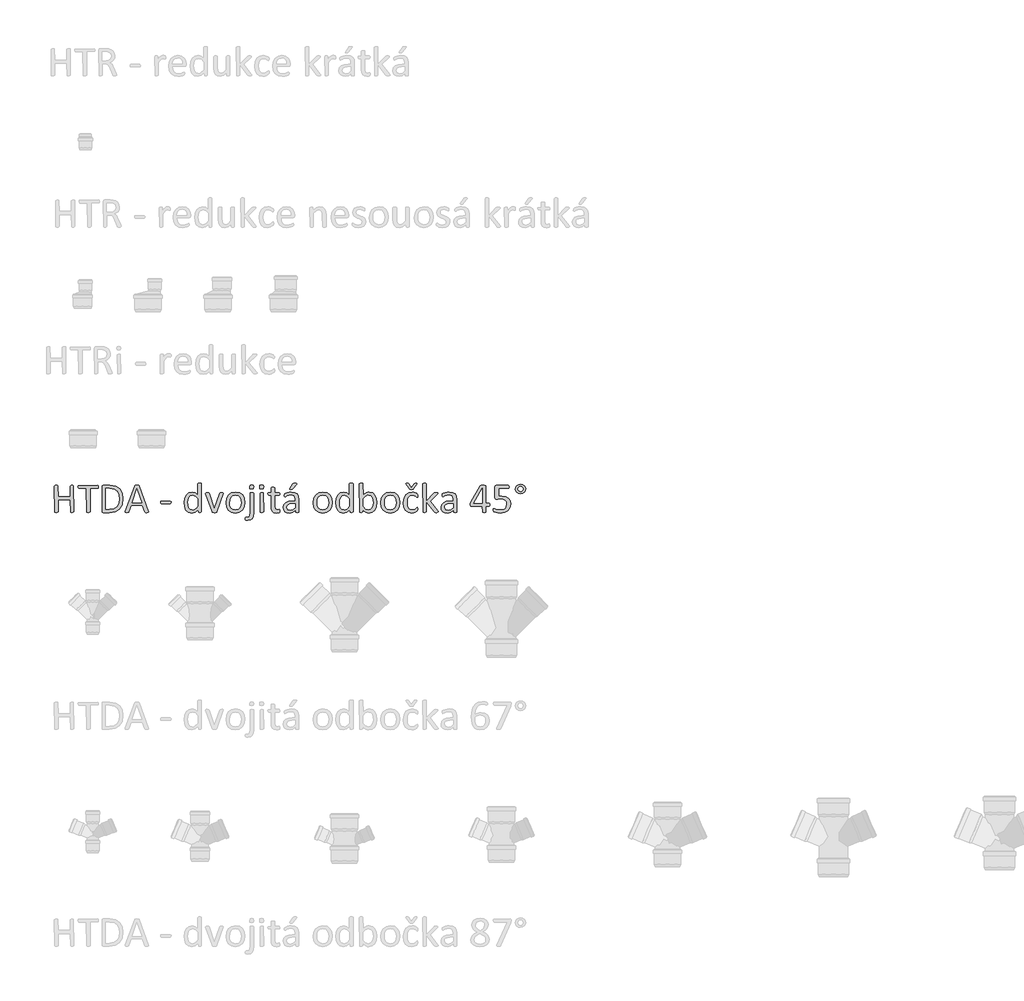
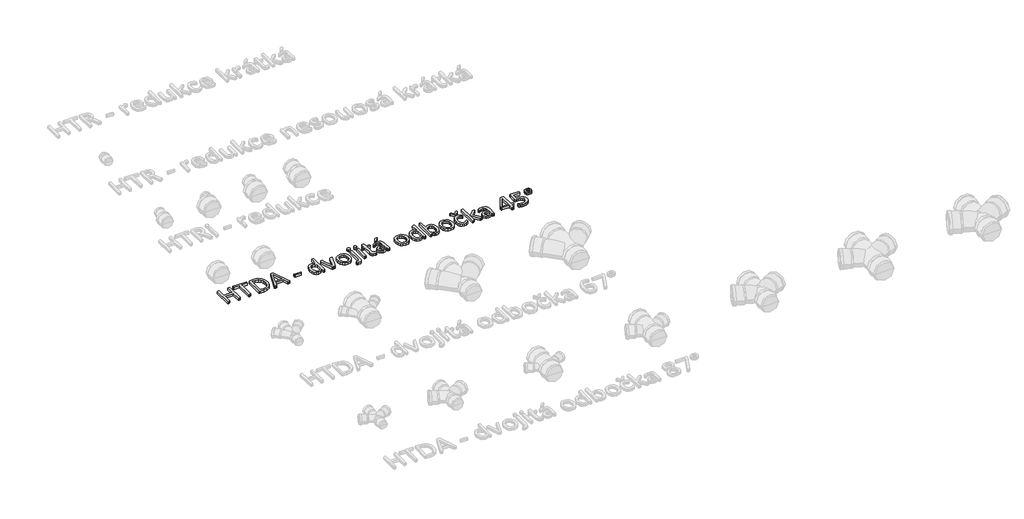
# One storey, part 17 of 26: 1 proxy.
"""IFC4 building model written with IfcOpenShell, lengths in millimetres."""

import ifcopenshell
import ifcopenshell.guid

model = None  # the IFC model being written
_history = None  # IfcOwnerHistory: only IFC2X3 demands one
_inside = {}  # id of a spatial element -> (the spatial element, [elements in it])
_under = {}  # id of a project, library or spatial element -> (it, [spatial elements below it])
_declared = {}  # id of a project -> (the project, [libraries it declares])
_typed = {}  # id of a type object -> (the type object, [elements of that type])
_made_of = {}  # id of a material, layer set ... -> (it, [elements and type objects made of it])


def new_model(schema):
    """Start an empty IFC model of exactly this schema.

    Asked for "IFC4X3", IfcOpenShell would pick the latest addendum, in which some entities
    have other attributes; the version numbers below select the first issue.
    IFC2X3 requires an IfcOwnerHistory on every rooted entity: one is made here for all.
    """
    global model, _history
    if schema == "IFC4X3":
        model = ifcopenshell.file(schema_version=(4, 3, 0, 0))
    else:
        model = ifcopenshell.file(schema=schema)
    _inside.clear()
    _under.clear()
    _declared.clear()
    _typed.clear()
    _made_of.clear()
    _history = None
    if model.schema == "IFC2X3":
        org = make("IfcOrganization", Name="unknown")
        user = make(
            "IfcPersonAndOrganization",
            ThePerson=make("IfcPerson", FamilyName="unknown"),
            TheOrganization=org,
        )
        app = make(
            "IfcApplication",
            ApplicationDeveloper=org,
            Version="unknown",
            ApplicationFullName="unknown",
            ApplicationIdentifier="unknown",
        )
        _history = make(
            "IfcOwnerHistory",
            OwningUser=user,
            OwningApplication=app,
            ChangeAction="ADDED",
            CreationDate=0,
        )
    return model


def make(cls, **values):
    """One entity of the class cls with the attributes given. An attribute that is None is left unset."""
    return model.create_entity(
        cls, **{name: value for name, value in values.items() if value is not None}
    )


def rooted(cls, **values):
    """An entity with a GlobalId (a new one), such as an element, a storey or a relation."""
    return make(cls, GlobalId=ifcopenshell.guid.new(), OwnerHistory=_history, **values)


def si_unit(unit_type, name, prefix=None):
    """IfcSIUnit, for example si_unit("LENGTHUNIT", "METRE", prefix="MILLI")."""
    return make("IfcSIUnit", UnitType=unit_type, Prefix=prefix, Name=name)


def assignment(units):
    """IfcUnitAssignment: the units of a project."""
    return None if units is None else make("IfcUnitAssignment", Units=units)


def point(xyz):
    """IfcCartesianPoint."""
    return None if xyz is None else make("IfcCartesianPoint", Coordinates=xyz)


def direction(xyz):
    """IfcDirection."""
    return None if xyz is None else make("IfcDirection", DirectionRatios=xyz)


def frame(location, z_axis=None, x_axis=None):
    """IfcAxis2Placement3D, a coordinate frame: its origin and axes. An axis left out is left unset."""
    return make(
        "IfcAxis2Placement3D",
        Location=point(location),
        Axis=direction(z_axis),
        RefDirection=direction(x_axis),
    )


def origin():
    """The frame at (0, 0, 0) with its axes left unset."""
    return frame((0.0, 0.0, 0.0))


def origin_with_axes():
    """The frame at (0, 0, 0) with the z axis (0, 0, 1) and the x axis (1, 0, 0) written out."""
    return frame((0.0, 0.0, 0.0), z_axis=(0.0, 0.0, 1.0), x_axis=(1.0, 0.0, 0.0))


def place(relative_to, where):
    """IfcLocalPlacement: puts the frame where relative to a parent placement (None: the world)."""
    return make(
        "IfcLocalPlacement", PlacementRelTo=relative_to, RelativePlacement=where
    )


def context(
    kind, dimensions, precision=None, world=None, true_north=None, identifier=None
):
    """IfcGeometricRepresentationContext, for example the 3D "Model" context."""
    return make(
        "IfcGeometricRepresentationContext",
        ContextIdentifier=identifier,
        ContextType=kind,
        CoordinateSpaceDimension=dimensions,
        Precision=precision,
        WorldCoordinateSystem=world,
        TrueNorth=true_north,
    )


def project(units=None, contexts=None):
    """IfcProject with its units and contexts."""
    return rooted(
        "IfcProject",
        Name="project",
        RepresentationContexts=contexts,
        UnitsInContext=assignment(units),
    )


def spatial(cls, under=None, at=None, **own):
    """A site, building, storey or space (cls), placed at a placement, below another one or the project."""
    s = rooted(cls, ObjectPlacement=at, **own)
    if under is not None:
        _under.setdefault(under.id(), (under, []))[1].append(s)
    return s


def polyline(points):
    """IfcPolyline through the points."""
    return make("IfcPolyline", Points=[point(p) for p in points])


def outline(outer, holes=None, kind="AREA"):
    """IfcArbitraryClosedProfileDef: a profile drawn as a closed curve; with holes, ...WithVoids."""
    if holes is None:
        return make("IfcArbitraryClosedProfileDef", ProfileType=kind, OuterCurve=outer)
    return make(
        "IfcArbitraryProfileDefWithVoids",
        ProfileType=kind,
        OuterCurve=outer,
        InnerCurves=holes,
    )


def extrude(swept, where, along, depth):
    """IfcExtrudedAreaSolid: the profile swept, set in the frame where, extruded along a direction by depth."""
    return make(
        "IfcExtrudedAreaSolid",
        SweptArea=swept,
        Position=where,
        ExtrudedDirection=direction(along),
        Depth=depth,
    )


def shape(context_of_items, identifier, shape_type, items):
    """IfcShapeRepresentation: the items that make up one representation, for example the "Body"."""
    return make(
        "IfcShapeRepresentation",
        ContextOfItems=context_of_items,
        RepresentationIdentifier=identifier,
        RepresentationType=shape_type,
        Items=items,
    )


def made_of(thing, what):
    """Note that an element or type object is made of a material, layer set ...; save() writes the relation."""
    if what is not None:
        _made_of.setdefault(what.id(), (what, []))[1].append(thing)
    return thing


def element(
    cls,
    number,
    at=None,
    inside=None,
    cuts=None,
    type_object=None,
    material=None,
    context=None,
    identifier="Body",
    shape_type=None,
    held_by="IfcProductDefinitionShape",
    body=None,
    shapes=None,
    **own,
):
    """One element of the class cls, such as IfcWall. Its Tag is "e" and its number.

    at: its placement. inside: the storey or other place that contains it. cuts: it is an
    opening in that element (IfcRelVoidsElement). A single representation is given by context,
    identifier, shape_type and body (its items); several are given by shapes. held_by: the class
    of the entity that holds the representations. save() writes the other relations.
    """
    e = rooted(cls, Tag="e%d" % number, ObjectPlacement=at, **own)
    if body is not None:
        shapes = [shape(context, identifier, shape_type, body)]
    if shapes is not None:
        e.Representation = make(held_by, Representations=shapes)
    if inside is not None:
        _inside.setdefault(inside.id(), (inside, []))[1].append(e)
    if cuts is not None:
        rooted(
            "IfcRelVoidsElement", RelatingBuildingElement=cuts, RelatedOpeningElement=e
        )
    if type_object is not None:
        _typed.setdefault(type_object.id(), (type_object, []))[1].append(e)
    return made_of(e, material)


def aggregate(whole, parts):
    """IfcRelAggregates: a whole, such as a stair, and the parts it consists of."""
    return rooted("IfcRelAggregates", RelatingObject=whole, RelatedObjects=parts)


def save(model, path):
    """Write the relations noted so far, then the file.

    IfcRelAggregates (storeys below a building ...), IfcRelContainedInSpatialStructure (elements
    in a storey), IfcRelDefinesByType, IfcRelAssociatesMaterial and IfcRelDeclares: one each for
    every whole, place, type object, material and project.
    """
    for whole, parts in _under.values():
        aggregate(whole, parts)
    for where, things in _inside.values():
        rooted(
            "IfcRelContainedInSpatialStructure",
            RelatedElements=things,
            RelatingStructure=where,
        )
    for kind, things in _typed.values():
        rooted("IfcRelDefinesByType", RelatedObjects=things, RelatingType=kind)
    for what, things in _made_of.values():
        rooted("IfcRelAssociatesMaterial", RelatedObjects=things, RelatingMaterial=what)
    for by, libraries in _declared.values():
        rooted("IfcRelDeclares", RelatingContext=by, RelatedDefinitions=libraries)
    model.write(path)


model = new_model("IFC4")

# Units and contexts
model_context = context("Model", 3, world=origin())
ifc_project = project(units=[si_unit("LENGTHUNIT", "METRE", prefix="MILLI")], contexts=[model_context])

# Site, building, storey
site = spatial("IfcSite", under=ifc_project)
building = spatial("IfcBuilding", under=site)
storey = spatial("IfcBuildingStorey", under=building, Name="Podlaží 1", Elevation=0.0)

# Proxy
placement = place(None, origin())
element("IfcBuildingElementProxy", 1, Name="120mm Arial", ObjectType="120mm Arial", at=placement, inside=storey, context=model_context, shape_type="SweptSolid", body=[
    extrude(outline(polyline([(-20465.0657483, 11928.0506997), (-20469.2817655, 11925.3184311), (-20473.1358927, 11925.0832026), (-20477.1166815, 11925.3184311), (-20479.5775327, 11925.8612659), (-20481.2784151, 11980.6694889), (-20534.5486061, 11980.6694889), (-20534.5486061, 11928.0145107), (-20538.7465288, 11925.3184311), (-20542.6549395, 11925.0832026), (-20546.5271613, 11925.3184311), (-20549.0603905, 11925.8793604), (-20550.7612729, 12042.5526591), (-20546.5271613, 12045.2849277), (-20542.6549395, 12045.5201562), (-20538.7465288, 12045.2849277), (-20536.2494886, 12044.7239984), (-20534.5486061, 11994.5660604), (-20481.2784151, 11994.5660604), (-20481.2784151, 12042.5526591), (-20477.1166815, 12045.2849277), (-20473.1358927, 12045.5201562), (-20469.2817655, 12045.2849277), (-20466.7666308, 12044.7239984), (-20465.0657483, 11928.0506997)])), origin_with_axes(), (0.0, 0.0, 1.0), 15.0),
    extrude(outline(polyline([(-20356.2092711, 12038.4633034), (-20356.390216, 12035.3329559), (-20356.9873343, 12033.1978056), (-20393.2667952, 12031.6235846), (-20393.2667952, 11928.0506997), (-20397.4647179, 11925.3184311), (-20401.3731287, 11925.0832026), (-20405.2453504, 11925.3184311), (-20407.7785796, 11925.8793604), (-20409.4794621, 12031.6235846), (-20443.3885442, 12031.6235846), (-20446.3017578, 12035.3329559), (-20446.5369862, 12038.4633034), (-20446.3017578, 12041.6660289), (-20445.686545, 12043.9097462), (-20359.3939021, 12045.5201562), (-20357.0054288, 12043.9097462), (-20356.390216, 12041.6660289), (-20356.2092711, 12038.4633034)])), origin_with_axes(), (0.0, 0.0, 1.0), 15.0),
    extrude(outline(polyline([(-20247.3527939, 11987.0749398), (-20251.3516771, 11959.7522536), (-20263.0407204, 11940.3911447), (-20281.8951833, 11928.9011409), (-20308.5121843, 11925.0832026), (-20334.0254212, 11925.0832026), (-20338.0966824, 11926.5307622), (-20339.9966043, 11931.5972206), (-20339.9966043, 12039.0061382), (-20338.0966824, 12044.0725966), (-20334.0254212, 12045.5201562), (-20306.7389239, 12045.5201562), (-20280.3028678, 12041.4669895), (-20262.1902791, 12029.8322297), (-20251.1164487, 12011.4482235), (-20247.3527939, 11987.0749398)]), holes=[polyline([(-20263.5654607, 11986.3511601), (-20266.0082174, 12004.3370873), (-20273.644094, 12018.7403047), (-20286.8168858, 12028.2218197), (-20307.3541367, 12031.6235846), (-20323.7839374, 12031.6235846), (-20323.7839374, 11938.9797742), (-20307.1731918, 11938.9797742), (-20287.5768545, 11941.8387043), (-20274.2593068, 11950.578345), (-20266.2434458, 11965.3434523), (-20263.5654607, 11986.3511601)])]), origin_with_axes(), (0.0, 0.0, 1.0), 15.0),
    extrude(outline(polyline([(-20134.5879059, 11931.3438976), (-20133.8098426, 11928.0506997), (-20134.4974334, 11926.1145888), (-20136.9582846, 11925.2641476), (-20141.5361917, 11925.0832026), (-20146.1502877, 11925.2279586), (-20148.7378004, 11925.6984154), (-20150.8367617, 11927.9783217), (-20161.1144344, 11957.5085363), (-20211.0190495, 11957.5085363), (-20220.8262653, 11928.3764006), (-20221.5862341, 11926.928841), (-20222.9252267, 11925.8793604), (-20225.4222669, 11925.2641476), (-20229.6563785, 11925.0832026), (-20234.0533406, 11925.3184311), (-20236.4599083, 11926.2050613), (-20237.1113101, 11928.1230777), (-20236.3151524, 11931.4162756), (-20196.0729972, 12042.2269582), (-20195.1139891, 12043.8735572), (-20193.3407286, 12044.8687544), (-20190.3732316, 12045.3754002), (-20185.7953245, 12045.5201562), (-20180.8736221, 12045.3754002), (-20177.7070856, 12044.8687544), (-20175.8614472, 12043.8373682), (-20174.830061, 12042.1545802), (-20134.5879059, 11931.3438976)]), holes=[polyline([(-20186.2295924, 12029.3074893), (-20207.0020718, 11969.0890126), (-20165.2761681, 11969.0890126), (-20186.2295924, 12029.3074893)])]), origin_with_axes(), (0.0, 0.0, 1.0), 15.0),
    extrude(outline(polyline([(-20034.2720299, 11970.2832492), (-20035.1224712, 11965.7234367), (-20037.6014169, 11964.4568221), (-20077.1921702, 11964.4568221), (-20079.7434939, 11965.7596256), (-20080.5939351, 11970.2832492), (-20079.7434939, 11974.7706838), (-20077.1921702, 11976.0372984), (-20037.6014169, 11976.0372984), (-20034.5072584, 11972.9974233), (-20034.2720299, 11970.2832492)])), origin_with_axes(), (0.0, 0.0, 1.0), 15.0),
    extrude(outline(polyline([(-19900.2642058, 11927.9783217), (-19903.6478762, 11925.2641476), (-19906.9591686, 11925.0832026), (-19910.3971225, 11925.2641476), (-19912.6408398, 11925.7346044), (-19914.3055333, 11938.0388605), (-19927.7497425, 11926.8021796), (-19943.0034011, 11922.7671074), (-19958.4199102, 11926.3679117), (-19968.7518664, 11936.1027496), (-19974.5421045, 11950.542156), (-19976.3696484, 11968.0033429), (-19974.0897422, 11987.6358691), (-19967.3585903, 12002.5819214), (-19956.3209488, 12012.0815308), (-19941.0853847, 12015.4109178), (-19927.9306874, 12012.1720033), (-19916.1511717, 12002.6723938), (-19916.1511717, 12051.7808512), (-19914.4864782, 12053.9883794), (-19911.989438, 12054.5493088), (-19908.1534052, 12054.7845372), (-19904.1364275, 12054.5493088), (-19901.6936708, 12053.9883794), (-19900.3727727, 12053.0655602), (-19900.2642058, 11927.9783217)]), holes=[polyline([(-19916.1511717, 11986.1702151), (-19927.767837, 11997.587841), (-19939.4568802, 12001.5143462), (-19949.0469622, 11998.7639831), (-19955.4524131, 11991.5080909), (-19959.035123, 11981.3027962), (-19960.1569816, 11969.7404144), (-19959.2160679, 11957.5085363), (-19955.9409645, 11946.9051627), (-19949.7526474, 11939.4683255), (-19940.072093, 11936.6636789), (-19934.3904219, 11937.4779312), (-19928.7811286, 11940.1740108), (-19922.7918511, 11945.0595243), (-19916.1511717, 11952.4782669), (-19916.1511717, 11986.1702151)])]), origin_with_axes(), (0.0, 0.0, 1.0), 15.0),
    extrude(outline(polyline([(-19803.6305594, 12011.502507), (-19832.1203405, 11928.3764006), (-19833.0974432, 11926.7298016), (-19834.9068926, 11925.7346044), (-19837.9648622, 11925.2279586), (-19842.6151472, 11925.0832026), (-19847.2292432, 11925.2641476), (-19850.2510237, 11925.8069824), (-19852.0604732, 11926.8202741), (-19853.0737648, 11928.3764006), (-19881.4459318, 12006.6169936), (-19882.0430501, 12008.5169155), (-19878.4422457, 12013.00435), (-19874.8595359, 12013.0948225), (-19870.5530463, 12012.9500666), (-19868.056006, 12012.4434207), (-19865.9570447, 12010.1635145), (-19842.3980132, 11942.2729721), (-19818.4770919, 12010.1635145), (-19816.504792, 12012.4434207), (-19814.0801298, 12012.9500666), (-19810.0450576, 12013.0948225), (-19806.5166312, 12013.00435), (-19803.6305594, 12011.502507)])), origin_with_axes(), (0.0, 0.0, 1.0), 15.0),
    extrude(outline(polyline([(-19707.7025983, 11969.9937373), (-19710.3805834, 11951.0126129), (-19718.3964444, 11936.0665606), (-19731.7501811, 11926.2774393), (-19750.3332267, 11922.7671074), (-19768.2467759, 11925.8612659), (-19780.9852999, 11934.8542295), (-19788.5849874, 11949.1850689), (-19791.0820276, 11968.2928548), (-19788.4402315, 11987.2739793), (-19780.478654, 12002.201937), (-19767.1792008, 12011.9367749), (-19748.5599662, 12015.4109178), (-19730.6283225, 12012.3167593), (-19717.8897985, 12003.3237956), (-19710.253922, 11988.9929562), (-19707.7025983, 11969.9937373)]), holes=[polyline([(-19723.9152651, 11968.9080676), (-19725.1637852, 11981.4837411), (-19729.2712354, 11991.8699808), (-19736.9975844, 11998.9268335), (-19749.175179, 12001.5143462), (-19760.7375608, 11999.1439675), (-19768.6991383, 11992.4490046), (-19773.3494233, 11982.2075209), (-19774.8693608, 11969.2699575), (-19773.6208407, 11956.6219061), (-19769.4772015, 11946.2718554), (-19761.696569, 11939.2511916), (-19749.5370689, 11936.6636789), (-19738.0108761, 11939.0340577), (-19729.9950152, 11945.6747371), (-19725.3809191, 11955.8800318), (-19723.9152651, 11968.9080676)])]), origin_with_axes(), (0.0, 0.0, 1.0), 15.0),
    extrude(outline(polyline([(-19668.3289789, 11923.7080211), (-19669.7946329, 11908.327701), (-19674.3725399, 11898.4481071), (-19682.3703064, 11892.3864516), (-19694.1679166, 11890.3417737), (-19699.4876979, 11890.7398526), (-19702.8532738, 11891.6264828), (-19704.4636838, 11892.7483415), (-19705.0969911, 11894.23209), (-19705.3322195, 11895.9691614), (-19705.386503, 11898.1224062), (-19705.2417471, 11901.1803758), (-19704.7531957, 11903.2612426), (-19700.5733676, 11904.4735737), (-19696.6287678, 11904.2383453), (-19691.1099471, 11905.1611645), (-19687.3643868, 11908.182945), (-19685.2292365, 11913.6293878), (-19684.5416457, 11923.7803991), (-19684.5416457, 12010.2358924), (-19682.8226687, 12012.3529483), (-19680.343723, 12012.9138776), (-19676.4353123, 12013.0948225), (-19672.5269015, 12012.9138776), (-19670.0479558, 12012.3529483), (-19668.7270577, 12011.430129), (-19668.3289789, 11923.7080211)])), origin_with_axes(), (0.0, 0.0, 1.0), 15.0),
    extrude(outline(polyline([(-19668.3289789, 12038.6804373), (-19670.3374677, 12031.2797892), (-19677.7381159, 12029.3074893), (-19684.9397246, 12031.2255057), (-19686.8577409, 12038.4633034), (-19684.9035356, 12045.8639515), (-19677.5571709, 12047.8362514), (-19670.2469952, 12045.918235), (-19668.3289789, 12038.6804373)])), origin_with_axes(), (0.0, 0.0, 1.0), 15.0),
    extrude(outline(polyline([(-19624.3231689, 11927.9059437), (-19628.4487136, 11925.2641476), (-19632.4656913, 11925.0832026), (-19636.4102911, 11925.2641476), (-19638.9073313, 11925.8069824), (-19640.5358357, 12010.2720814), (-19636.4102911, 12012.9138776), (-19632.4656913, 12013.0948225), (-19628.4487136, 12012.9138776), (-19626.0059569, 12012.3710427), (-19624.3231689, 11927.9059437)])), origin_with_axes(), (0.0, 0.0, 1.0), 15.0),
    extrude(outline(polyline([(-19624.3231689, 12038.6804373), (-19626.3135633, 12031.2797892), (-19633.6961169, 12029.3074893), (-19640.8977256, 12031.2255057), (-19642.851931, 12038.4633034), (-19640.8615366, 12045.8639515), (-19633.478983, 12047.8362514), (-19626.2773743, 12045.918235), (-19624.3231689, 12038.6804373)])), origin_with_axes(), (0.0, 0.0, 1.0), 15.0),
    extrude(outline(polyline([(-19552.5242159, 11933.40667), (-19552.8861057, 11928.8830464), (-19553.9898699, 11926.4221952), (-19556.1973982, 11924.9384467), (-19559.5448796, 11923.7984935), (-19563.5437628, 11923.0566193), (-19567.75978, 11922.7671074), (-19578.779327, 11924.5222733), (-19586.2885421, 11929.8239601), (-19590.5588427, 11938.8169237), (-19591.8978353, 11951.6821091), (-19591.8978353, 12001.5143462), (-19602.8992878, 12001.5143462), (-19605.0163436, 12002.8714333), (-19605.7944068, 12007.2683954), (-19605.5772729, 12009.964475), (-19605.0163436, 12011.7920189), (-19591.8978353, 12013.0948225), (-19591.8978353, 12033.2520891), (-19590.2693308, 12035.4596174), (-19587.7722906, 12036.0748302), (-19583.8276909, 12036.2557751), (-19579.8107131, 12036.0748302), (-19577.3679564, 12035.4596174), (-19576.0832473, 12034.4644202), (-19575.6851685, 12013.0948225), (-19555.4193349, 12013.0948225), (-19552.7051608, 12009.964475), (-19552.5242159, 12007.2683954), (-19553.3203736, 12002.8714333), (-19555.4193349, 12001.5143462), (-19575.6851685, 12001.5143462), (-19575.6851685, 11954.3239053), (-19573.2786007, 11941.133019), (-19564.647527, 11936.6636789), (-19561.0467226, 11937.0798523), (-19558.242076, 11937.948388), (-19556.1250202, 11938.8350182), (-19554.5507992, 11939.2692861), (-19552.7051608, 11936.337978), (-19552.5242159, 11933.40667)])), origin_with_axes(), (0.0, 0.0, 1.0), 15.0),
    extrude(outline(polyline([(-19494.6580233, 12051.4913392), (-19493.3190308, 12053.0836547), (-19491.4552979, 12054.0607574), (-19488.7230292, 12054.6035923), (-19484.8146185, 12054.7845372), (-19480.4719399, 12054.4769308), (-19478.1558446, 12053.5903006), (-19478.4091675, 12050.6589925), (-19495.707504, 12029.8503242), (-19497.1007801, 12028.4208591), (-19498.5302451, 12027.5704179), (-19500.6292064, 12027.1180555), (-19503.8500264, 12026.9913941), (-19507.1794133, 12027.2628115), (-19508.9164848, 12027.9865913), (-19508.5184059, 12030.8274268), (-19494.6580233, 12051.4913392)])), origin_with_axes(), (0.0, 0.0, 1.0), 15.0),
    extrude(outline(polyline([(-19469.1447865, 11927.8697547), (-19469.9409442, 11926.1869668), (-19472.1122836, 11925.35462), (-19476.1654503, 11925.0832026), (-19480.2729004, 11925.35462), (-19482.4985232, 11926.1869668), (-19483.186114, 11927.8697547), (-19483.186114, 11936.1932221), (-19495.3818031, 11926.5669512), (-19509.6402646, 11922.7671074), (-19521.6007252, 11924.4860843), (-19530.7022558, 11929.4620702), (-19536.5467775, 11937.4598367), (-19538.6276443, 11948.2441552), (-19535.7506197, 11960.5122223), (-19527.4995304, 11969.1613906), (-19514.3448331, 11974.3183214), (-19496.8293627, 11976.0372984), (-19485.3574533, 11976.0372984), (-19485.3574533, 11982.9493951), (-19486.370745, 11991.9966423), (-19489.627754, 11998.5468492), (-19495.4360866, 12002.4914489), (-19504.2119163, 12003.8304415), (-19514.2543606, 12002.3828819), (-19522.0349931, 11999.198251), (-19527.6261918, 11996.01362), (-19530.9555788, 11994.5660604), (-19533.8145088, 11998.0944868), (-19533.9954538, 12000.7543775), (-19533.6697529, 12004.5542212), (-19532.0774374, 12007.2141119), (-19527.7347588, 12009.928286), (-19520.641717, 12012.6062712), (-19511.8658874, 12014.61476), (-19502.2577109, 12015.4109178), (-19486.8773908, 12013.3662399), (-19476.6178126, 12007.3950568), (-19470.9180469, 11997.6421245), (-19469.1447865, 11984.0350648), (-19469.1447865, 11927.8697547)]), holes=[polyline([(-19485.3574533, 11964.4568221), (-19498.2407332, 11964.4568221), (-19508.9888628, 11963.3892469), (-19516.5704558, 11960.2408049), (-19521.0036069, 11955.2467245), (-19522.4149775, 11948.5336671), (-19518.3618108, 11938.1836164), (-19506.9984684, 11934.3475837), (-19495.9970159, 11937.4055532), (-19485.3574533, 11946.7604067), (-19485.3574533, 11964.4568221)])]), origin_with_axes(), (0.0, 0.0, 1.0), 15.0),
    extrude(outline(polyline([(-19320.9146899, 11969.9937373), (-19323.592675, 11951.0126129), (-19331.6085359, 11936.0665606), (-19344.9622727, 11926.2774393), (-19363.5453182, 11922.7671074), (-19381.4588675, 11925.8612659), (-19394.1973914, 11934.8542295), (-19401.797079, 11949.1850689), (-19404.2941192, 11968.2928548), (-19401.6523231, 11987.2739793), (-19393.6907456, 12002.201937), (-19380.3912924, 12011.9367749), (-19361.7720578, 12015.4109178), (-19343.840414, 12012.3167593), (-19331.1018901, 12003.3237956), (-19323.4660135, 11988.9929562), (-19320.9146899, 11969.9937373)]), holes=[polyline([(-19337.1273567, 11968.9080676), (-19338.3758768, 11981.4837411), (-19342.483327, 11991.8699808), (-19350.209676, 11998.9268335), (-19362.3872706, 12001.5143462), (-19373.9496524, 11999.1439675), (-19381.9112299, 11992.4490046), (-19386.5615149, 11982.2075209), (-19388.0814524, 11969.2699575), (-19386.8329323, 11956.6219061), (-19382.6892931, 11946.2718554), (-19374.9086606, 11939.2511916), (-19362.7491605, 11936.6636789), (-19351.2229677, 11939.0340577), (-19343.2071067, 11945.6747371), (-19338.5930107, 11955.8800318), (-19337.1273567, 11968.9080676)])]), origin_with_axes(), (0.0, 0.0, 1.0), 15.0),
    extrude(outline(polyline([(-19228.5965804, 11927.9783217), (-19231.9802508, 11925.2641476), (-19235.2915432, 11925.0832026), (-19238.7294971, 11925.2641476), (-19240.9732144, 11925.7346044), (-19242.6379079, 11938.0388605), (-19256.0821171, 11926.8021796), (-19271.3357757, 11922.7671074), (-19286.7522848, 11926.3679117), (-19297.084241, 11936.1027496), (-19302.8744791, 11950.542156), (-19304.702023, 11968.0033429), (-19302.4221168, 11987.6358691), (-19295.6909649, 12002.5819214), (-19284.6533234, 12012.0815308), (-19269.4177593, 12015.4109178), (-19256.263062, 12012.1720033), (-19244.4835463, 12002.6723938), (-19244.4835463, 12051.7808512), (-19242.8188528, 12053.9883794), (-19240.3218126, 12054.5493088), (-19236.4857798, 12054.7845372), (-19232.4688021, 12054.5493088), (-19230.0260454, 12053.9883794), (-19228.7051473, 12053.0655602), (-19228.5965804, 11927.9783217)]), holes=[polyline([(-19244.4835463, 11986.1702151), (-19256.1002116, 11997.587841), (-19267.7892548, 12001.5143462), (-19277.3793368, 11998.7639831), (-19283.7847877, 11991.5080909), (-19287.3674976, 11981.3027962), (-19288.4893562, 11969.7404144), (-19287.5484425, 11957.5085363), (-19284.2733391, 11946.9051627), (-19278.085022, 11939.4683255), (-19268.4044676, 11936.6636789), (-19262.7227965, 11937.4779312), (-19257.1135032, 11940.1740108), (-19251.1242257, 11945.0595243), (-19244.4835463, 11952.4782669), (-19244.4835463, 11986.1702151)])]), origin_with_axes(), (0.0, 0.0, 1.0), 15.0),
    extrude(outline(polyline([(-19124.0465928, 11970.1746822), (-19126.362688, 11950.4516835), (-19133.1843123, 11935.5056313), (-19144.2581428, 11926.0422108), (-19159.2946675, 11922.7671074), (-19166.5324652, 11923.5632651), (-19173.0464831, 11926.1507778), (-19179.4157451, 11930.6563069), (-19186.1468969, 11937.2065138), (-19186.1468969, 11927.7611878), (-19190.0372132, 11925.2641476), (-19193.4208836, 11925.0832026), (-19196.7502705, 11925.2641476), (-19199.0120823, 11925.7707934), (-19200.4777363, 12051.8170401), (-19196.3521917, 12054.6035923), (-19192.4075919, 12054.7845372), (-19188.3906142, 12054.6035923), (-19185.9478575, 12054.0426629), (-19184.6631484, 12053.1017492), (-19184.2650695, 12001.5505352), (-19177.2263113, 12008.0102696), (-19170.5494429, 12012.2805703), (-19164.0173305, 12014.6690435), (-19157.1233282, 12015.4109178), (-19141.9058586, 12011.7558299), (-19131.6281858, 12001.9667086), (-19125.8560422, 11987.5815857), (-19124.0465928, 11970.1746822)]), holes=[polyline([(-19140.2592596, 11968.4014218), (-19141.2001733, 11980.7237724), (-19144.4933712, 11991.3090515), (-19150.6997827, 11998.7096996), (-19160.3441482, 12001.5143462), (-19165.9896304, 12000.700094), (-19171.653207, 11997.9859198), (-19177.6424846, 11993.1185009), (-19184.2650695, 11985.6273803), (-19184.2650695, 11952.00781), (-19172.5760263, 11940.5901842), (-19160.959361, 11936.6636789), (-19151.4235625, 11939.4321366), (-19144.9819226, 11946.7423122), (-19141.3811182, 11956.947607), (-19140.2592596, 11968.4014218)])]), origin_with_axes(), (0.0, 0.0, 1.0), 15.0),
    extrude(outline(polyline([(-19022.1384013, 11969.9937373), (-19024.8163865, 11951.0126129), (-19032.8322474, 11936.0665606), (-19046.1859841, 11926.2774393), (-19064.7690297, 11922.7671074), (-19082.682579, 11925.8612659), (-19095.4211029, 11934.8542295), (-19103.0207905, 11949.1850689), (-19105.5178307, 11968.2928548), (-19102.8760345, 11987.2739793), (-19094.9144571, 12002.201937), (-19081.6150038, 12011.9367749), (-19062.9957693, 12015.4109178), (-19045.0641255, 12012.3167593), (-19032.3256016, 12003.3237956), (-19024.689725, 11988.9929562), (-19022.1384013, 11969.9937373)]), holes=[polyline([(-19038.3510681, 11968.9080676), (-19039.5995882, 11981.4837411), (-19043.7070384, 11991.8699808), (-19051.4333875, 11998.9268335), (-19063.6109821, 12001.5143462), (-19075.1733639, 11999.1439675), (-19083.1349413, 11992.4490046), (-19087.7852263, 11982.2075209), (-19089.3051639, 11969.2699575), (-19088.0566438, 11956.6219061), (-19083.9130046, 11946.2718554), (-19076.1323721, 11939.2511916), (-19063.972872, 11936.6636789), (-19052.4466791, 11939.0340577), (-19044.4308182, 11945.6747371), (-19039.8167222, 11955.8800318), (-19038.3510681, 11968.9080676)])]), origin_with_axes(), (0.0, 0.0, 1.0), 15.0),
    extrude(outline(polyline([(-18941.0750672, 11941.7301373), (-18941.1655397, 11939.1969081), (-18941.4912406, 11937.3874587), (-18943.4816349, 11933.7504654), (-18947.3719512, 11930.222039), (-18953.5421737, 11926.4764787), (-18960.9790109, 11923.7984935), (-18969.3024782, 11922.7671074), (-18985.0084992, 11925.7707934), (-18996.462314, 11934.5466231), (-19003.5010723, 11948.6965176), (-19005.9257345, 11968.0395319), (-19002.9582374, 11989.4815076), (-18994.8338095, 12004.1561424), (-18982.6924039, 12012.6424602), (-18967.5654068, 12015.4109178), (-18959.9295302, 12014.5966655), (-18953.1260004, 12012.4615152), (-18947.5890851, 12009.4216402), (-18944.0787533, 12006.4722376), (-18942.5769102, 12004.5361267), (-18941.8893195, 12002.9980947), (-18941.5274296, 12001.0981728), (-18941.4369571, 11998.4382822), (-18942.2512093, 11993.6251467), (-18944.2235092, 11992.2499652), (-18947.3538567, 11993.6975247), (-18951.8231968, 11996.8821557), (-18958.3914982, 12000.0667867), (-18967.4568398, 12001.5143462), (-18976.9790674, 11999.4153849), (-18983.977113, 11993.1185009), (-18988.279079, 11982.8227337), (-18989.7130677, 11968.7271227), (-18988.2293192, 11954.7219842), (-18983.8504516, 11944.6614454), (-18976.7393153, 11938.6359788), (-18967.0949499, 11936.6636789), (-18958.0657973, 11938.4912229), (-18951.3346454, 11942.5082006), (-18946.5396045, 11946.4708948), (-18943.4997294, 11948.2441552), (-18941.2017287, 11944.6795399), (-18941.0750672, 11941.7301373)])), origin_with_axes(), (0.0, 0.0, 1.0), 15.0),
    extrude(outline(polyline([(-18958.4457817, 12052.1065521), (-18957.287734, 12053.3912611), (-18953.9945361, 12054.6578757), (-18951.099417, 12054.7845372), (-18947.3176677, 12054.4769308), (-18945.5082183, 12053.5903006), (-18946.8653054, 12049.7904568), (-18961.8113576, 12029.3074893), (-18962.9874997, 12028.1494417), (-18964.5798152, 12027.4799454), (-18966.8959105, 12027.1180555), (-18970.2433919, 12026.9913941), (-18973.3918339, 12027.1180555), (-18975.6174567, 12027.5161344), (-18977.1554887, 12028.2399142), (-18993.1872106, 12049.7904568), (-18994.5804866, 12052.0160796), (-18992.6805647, 12054.4769308), (-18988.9169099, 12054.7845372), (-18985.8046569, 12054.6578757), (-18983.9228295, 12054.2055134), (-18981.6067343, 12052.1065521), (-18970.026258, 12035.9300742), (-18958.4457817, 12052.1065521)])), origin_with_axes(), (0.0, 0.0, 1.0), 15.0),
    extrude(outline(polyline([(-18850.7473521, 11928.0145107), (-18854.8186133, 11925.2641476), (-18858.8174965, 11925.0832026), (-18862.9430412, 11925.2279586), (-18865.6934043, 11925.6803209), (-18867.5028537, 11926.5850457), (-18868.7694683, 11928.0145107), (-18904.0175431, 11973.5764471), (-18904.0175431, 11927.9059437), (-18908.1430877, 11925.2641476), (-18912.1600655, 11925.0832026), (-18916.1046652, 11925.2641476), (-18918.6017054, 11925.8250769), (-18920.2302099, 12051.8170401), (-18916.1046652, 12054.6035923), (-18912.1600655, 12054.7845372), (-18908.1430877, 12054.6035923), (-18905.700331, 12054.0426629), (-18904.4156219, 12053.1017492), (-18904.0175431, 11975.6754085), (-18871.8093433, 12009.9101915), (-18870.1989334, 12011.4120346), (-18868.17235, 12012.4072317), (-18865.3857979, 12012.9500666), (-18861.4954816, 12013.0948225), (-18857.5146929, 12012.9500666), (-18854.9271802, 12012.4977042), (-18853.4977152, 12011.683452), (-18853.6967546, 12008.1550256), (-18855.8138105, 12005.6037019), (-18887.8048762, 11975.7839754), (-18853.0272584, 11932.3210003), (-18851.2720924, 11929.8058656), (-18850.7473521, 11928.0145107)])), origin_with_axes(), (0.0, 0.0, 1.0), 15.0),
    extrude(outline(polyline([(-18769.684018, 11927.8697547), (-18770.4801757, 11926.1869668), (-18772.651515, 11925.35462), (-18776.7046817, 11925.0832026), (-18780.8121319, 11925.35462), (-18783.0377547, 11926.1869668), (-18783.7253455, 11927.8697547), (-18783.7253455, 11936.1932221), (-18795.9210346, 11926.5669512), (-18810.179496, 11922.7671074), (-18822.1399567, 11924.4860843), (-18831.2414873, 11929.4620702), (-18837.0860089, 11937.4598367), (-18839.1668758, 11948.2441552), (-18836.2898512, 11960.5122223), (-18828.0387618, 11969.1613906), (-18814.8840645, 11974.3183214), (-18797.3685941, 11976.0372984), (-18785.8966848, 11976.0372984), (-18785.8966848, 11982.9493951), (-18786.9099765, 11991.9966423), (-18790.1669854, 11998.5468492), (-18795.9753181, 12002.4914489), (-18804.7511478, 12003.8304415), (-18814.7935921, 12002.3828819), (-18822.5742246, 11999.198251), (-18828.1654233, 11996.01362), (-18831.4948102, 11994.5660604), (-18834.3537403, 11998.0944868), (-18834.5346853, 12000.7543775), (-18834.2089844, 12004.5542212), (-18832.6166689, 12007.2141119), (-18828.2739903, 12009.928286), (-18821.1809485, 12012.6062712), (-18812.4051188, 12014.61476), (-18802.7969424, 12015.4109178), (-18787.4166223, 12013.3662399), (-18777.1570441, 12007.3950568), (-18771.4572784, 11997.6421245), (-18769.684018, 11984.0350648), (-18769.684018, 11927.8697547)]), holes=[polyline([(-18785.8966848, 11964.4568221), (-18798.7799647, 11964.4568221), (-18809.5280942, 11963.3892469), (-18817.1096873, 11960.2408049), (-18821.5428384, 11955.2467245), (-18822.954209, 11948.5336671), (-18818.9010423, 11938.1836164), (-18807.5376999, 11934.3475837), (-18796.5362474, 11937.4055532), (-18785.8966848, 11946.7604067), (-18785.8966848, 11964.4568221)])]), origin_with_axes(), (0.0, 0.0, 1.0), 15.0),
    extrude(outline(polyline([(-18622.9014809, 11959.8246315), (-18623.8423946, 11954.7400787), (-18626.4480017, 11952.8763458), (-18639.9826834, 11952.8763458), (-18639.9826834, 11927.9421327), (-18641.7197549, 11925.8069824), (-18644.2529841, 11925.2641476), (-18648.2337728, 11925.0832026), (-18652.1059945, 11925.2641476), (-18654.5849403, 11925.8069824), (-18656.1953502, 11952.8763458), (-18705.2314296, 11952.8763458), (-18707.077068, 11953.1658577), (-18708.3979661, 11954.2334328), (-18709.2303128, 11956.4590556), (-18709.4655412, 11960.2227104), (-18709.3750687, 11963.5159084), (-18709.0131789, 11966.175799), (-18708.2713046, 11968.4918943), (-18707.1856349, 11970.862273), (-18664.4464396, 12042.6974151), (-18663.071258, 12043.9640297), (-18660.7189738, 12044.8687544), (-18657.1724529, 12045.3754002), (-18652.2145615, 12045.5201562), (-18646.7138353, 12045.2849277), (-18642.932086, 12044.6878094), (-18640.7426522, 12043.7288012), (-18639.9826834, 11966.7729173), (-18626.4480017, 11966.7729173), (-18623.8785836, 11965.0539404), (-18622.9014809, 11959.8246315)]), holes=[polyline([(-18656.1953502, 12031.5873956), (-18694.9175679, 11966.7729173), (-18656.1953502, 11966.7729173), (-18656.1953502, 12031.5873956)])]), origin_with_axes(), (0.0, 0.0, 1.0), 15.0),
    extrude(outline(polyline([(-18531.1262062, 11962.7197506), (-18534.4013097, 11945.7290205), (-18543.6656907, 11933.189536), (-18557.9241521, 11925.426998), (-18576.3262528, 11922.7671074), (-18586.9839099, 11923.5632651), (-18595.958779, 11925.535565), (-18602.4185134, 11927.8335658), (-18605.6393334, 11929.6249207), (-18607.4668773, 11934.2209222), (-18607.5573498, 11937.1341358), (-18607.4125938, 11939.9930659), (-18606.8878535, 11942.0558382), (-18601.8756786, 11942.5262951), (-18596.5197083, 11940.1740108), (-18588.1781465, 11937.7855376), (-18576.3624417, 11936.6636789), (-18564.691493, 11938.129333), (-18555.5537734, 11942.743429), (-18549.5283068, 11950.6326285), (-18547.338873, 11962.1769158), (-18549.1664169, 11972.2736436), (-18554.7757101, 11979.5476302), (-18564.3657921, 11983.8722144), (-18578.2442691, 11985.3016794), (-18588.0695795, 11984.7407501), (-18595.7235506, 11984.1798208), (-18599.4872054, 11985.3921519), (-18600.609064, 11990.0786259), (-18600.609064, 12039.4404061), (-18599.1615045, 12044.0183131), (-18594.9997708, 12045.5201562), (-18541.6210128, 12045.5201562), (-18539.0154057, 12043.8554627), (-18538.3097204, 12041.7203124), (-18538.074492, 12038.6804373), (-18538.9611222, 12033.469223), (-18541.4400679, 12031.6235846), (-18584.3963972, 12031.6235846), (-18584.3963972, 11996.2307539), (-18578.0452297, 11996.7916832), (-18570.5722036, 11996.8821557), (-18553.3643396, 11994.439399), (-18541.0962725, 11987.5453967), (-18533.6594354, 11976.7610781), (-18531.1262062, 11962.7197506)])), origin_with_axes(), (0.0, 0.0, 1.0), 15.0),
    extrude(outline(polyline([(-18463.9594437, 12029.6693792), (-18465.7146096, 12021.4001954), (-18470.6544065, 12014.61476), (-18478.1455271, 12010.073042), (-18487.4822861, 12008.462632), (-18496.6742892, 12009.9463805), (-18503.8397089, 12014.1262087), (-18508.5804664, 12020.5859431), (-18510.2813489, 12028.9455995), (-18508.4718994, 12037.4500117), (-18503.4959135, 12044.1449746), (-18496.0590764, 12048.5419367), (-18486.7585064, 12050.1523467), (-18477.6207868, 12048.6324092), (-18470.4010836, 12044.452581), (-18465.6603261, 12038.0290355), (-18463.9594437, 12029.6693792)]), holes=[polyline([(-18475.53992, 12029.3436783), (-18476.4084557, 12033.9396799), (-18478.8331179, 12037.6128622), (-18482.5424892, 12040.0194299), (-18487.2289632, 12040.8879656), (-18491.7525868, 12040.0194299), (-18495.4076746, 12037.6128622), (-18497.8323368, 12033.9939633), (-18498.7008726, 12029.5246233), (-18497.8323368, 12024.7114878), (-18495.3533911, 12021.0021165), (-18491.5535473, 12018.5955488), (-18486.8308843, 12017.727013), (-18482.3977333, 12018.6317377), (-18478.7969289, 12021.1287779), (-18476.4084557, 12024.8019603), (-18475.53992, 12029.3436783)])]), origin_with_axes(), (0.0, 0.0, 1.0), 15.0),
])

save(model, "model.ifc")
